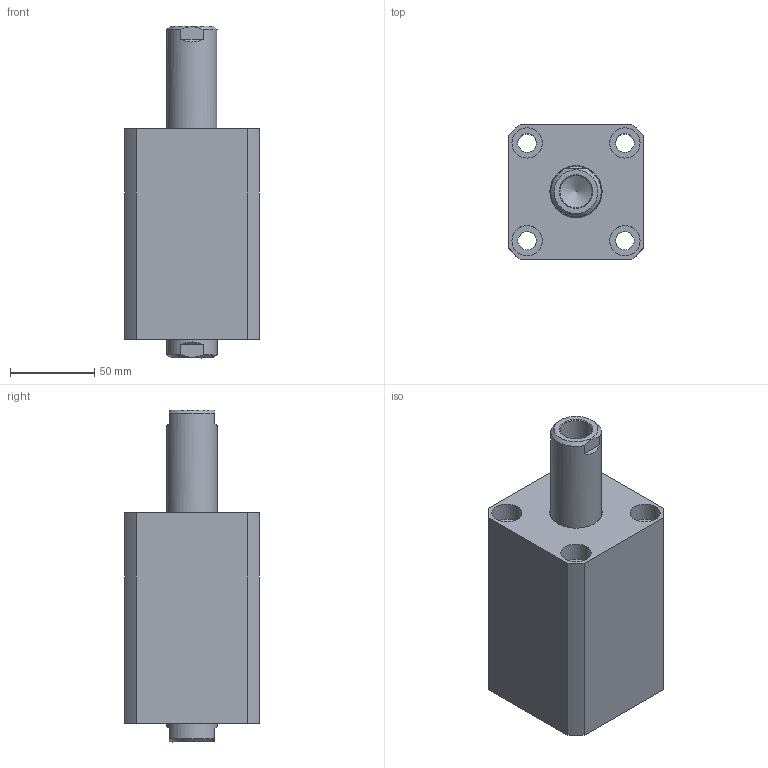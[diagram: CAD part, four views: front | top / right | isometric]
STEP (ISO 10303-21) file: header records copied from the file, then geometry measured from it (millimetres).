
FILE_DESCRIPTION(/* description */ (''),/* implementation_level */ '2;1');
FILE_NAME(/* name */ 'CHTB-SW50-50N.stp',/* time_stamp */ '2022-04-29T18:28:51+08:00',/* author */ (''),/* organization */ (''),/* preprocessor_version */ 'ST-DEVELOPER v16.7',/* originating_system */ 'SIEMENS PLM Software NX 12.0',/* authorisation */ '');
FILE_SCHEMA (('AUTOMOTIVE_DESIGN { 1 0 10303 214 3 1 1 1 }'));
Length unit declared in the file: millimetre
Products named in the file (1): CHTB-SW50-50N
Bounding box: 80 x 80 x 197 mm (x, y, z)
Volume: 688961.4 mm3; surface area: 131609 mm2
Topology: 3 solids, 3 shells, 435 faces, 1185 edges, 806 vertices
Faces by surface type: plane 270, extrusion 78, cylinder 55, cone 16, torus 12, bspline 4
Full cylindrical faces by diameter (mm): 4 x2, 4.2 x2, 10.7 x2, 11 x4, 18 x8, 19 x2, 30 x4, 39 x1, 44 x2, 45 x1, 46 x1, 50 x6, 55 x9, 59 x1
Entity records: 19418 total; most frequent: CARTESIAN_POINT 7143, ORIENTED_EDGE 2174, DIRECTION 1721, EDGE_CURVE 1087, VECTOR 791, VERTEX_POINT 790, LINE 713, EDGE_LOOP 561
